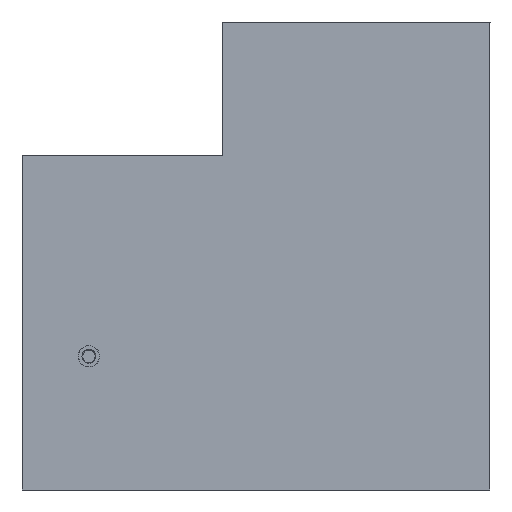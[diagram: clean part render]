
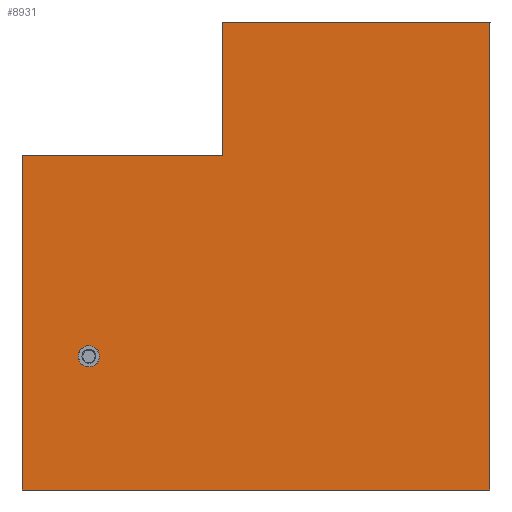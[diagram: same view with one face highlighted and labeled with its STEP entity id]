
A CAD part, left-side view. The second image highlights one B-rep face of the part: STEP entity #8931.
In plain terms, the highlighted planar face has unit normal (-1, 0, 0).
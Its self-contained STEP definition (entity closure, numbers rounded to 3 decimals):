
#7 = DIRECTION ( 'NONE',  ( 0., -1., 0. ) ) ;
#101 = DIRECTION ( 'NONE',  ( -1., 0., 0. ) ) ;
#122 = VERTEX_POINT ( 'NONE', #2114 ) ;
#373 = CARTESIAN_POINT ( 'NONE',  ( -10., 25., -10. ) ) ;
#394 = VECTOR ( 'NONE', #7, 1000. ) ;
#502 = LINE ( 'NONE', #3722, #4948 ) ;
#548 = VECTOR ( 'NONE', #5599, 1000. ) ;
#723 = LINE ( 'NONE', #7472, #394 ) ;
#975 = DIRECTION ( 'NONE',  ( -1., 0., 0. ) ) ;
#1260 = ORIENTED_EDGE ( 'NONE', *, *, #10468, .T. ) ;
#1437 = CARTESIAN_POINT ( 'NONE',  ( -10., 25., 15. ) ) ;
#1922 = ORIENTED_EDGE ( 'NONE', *, *, #2631, .F. ) ;
#2044 = VERTEX_POINT ( 'NONE', #3774 ) ;
#2114 = CARTESIAN_POINT ( 'NONE',  ( -10., 10., 25. ) ) ;
#2201 = VERTEX_POINT ( 'NONE', #4919 ) ;
#2470 = ORIENTED_EDGE ( 'NONE', *, *, #9874, .F. ) ;
#2582 = PLANE ( 'NONE',  #4031 ) ;
#2631 = EDGE_CURVE ( 'NONE', #5541, #7901, #7839, .T. ) ;
#2914 = LINE ( 'NONE', #7382, #548 ) ;
#3056 = LINE ( 'NONE', #1437, #6366 ) ;
#3184 = ORIENTED_EDGE ( 'NONE', *, *, #5424, .F. ) ;
#3221 = DIRECTION ( 'NONE',  ( 0., 0., -1. ) ) ;
#3362 = VERTEX_POINT ( 'NONE', #9746 ) ;
#3398 = DIRECTION ( 'NONE',  ( 1., 0., 0. ) ) ;
#3722 = CARTESIAN_POINT ( 'NONE',  ( -10., 10., -10. ) ) ;
#3774 = CARTESIAN_POINT ( 'NONE',  ( -10., -10., -10. ) ) ;
#4031 = AXIS2_PLACEMENT_3D ( 'NONE', #9288, #3398, #6675 ) ;
#4174 = FACE_BOUND ( 'NONE', #9604, .T. ) ;
#4257 = VERTEX_POINT ( 'NONE', #5747 ) ;
#4288 = VECTOR ( 'NONE', #3221, 1000. ) ;
#4549 = EDGE_CURVE ( 'NONE', #2044, #10641, #502, .T. ) ;
#4621 = ORIENTED_EDGE ( 'NONE', *, *, #8750, .F. ) ;
#4687 = AXIS2_PLACEMENT_3D ( 'NONE', #6910, #101, #8442 ) ;
#4727 = ORIENTED_EDGE ( 'NONE', *, *, #4549, .F. ) ;
#4760 = DIRECTION ( 'NONE',  ( 0., 1., 0. ) ) ;
#4862 = ORIENTED_EDGE ( 'NONE', *, *, #5553, .F. ) ;
#4919 = CARTESIAN_POINT ( 'NONE',  ( -10., 25., 15. ) ) ;
#4948 = VECTOR ( 'NONE', #4760, 1000. ) ;
#5206 = VECTOR ( 'NONE', #6857, 1000. ) ;
#5424 = EDGE_CURVE ( 'NONE', #10641, #2201, #3056, .T. ) ;
#5477 = LINE ( 'NONE', #7371, #4288 ) ;
#5541 = VERTEX_POINT ( 'NONE', #7159 ) ;
#5553 = EDGE_CURVE ( 'NONE', #3362, #2044, #5477, .T. ) ;
#5599 = DIRECTION ( 'NONE',  ( 0., 0., 1. ) ) ;
#5747 = CARTESIAN_POINT ( 'NONE',  ( -10., 10., 15. ) ) ;
#6366 = VECTOR ( 'NONE', #8035, 1000. ) ;
#6675 = DIRECTION ( 'NONE',  ( 0., 0., -1. ) ) ;
#6746 = EDGE_LOOP ( 'NONE', ( #2470, #4621, #1260, #3184, #4727, #4862 ) ) ;
#6804 = LINE ( 'NONE', #9362, #5206 ) ;
#6857 = DIRECTION ( 'NONE',  ( 0., 1., 0. ) ) ;
#6910 = CARTESIAN_POINT ( 'NONE',  ( -10., 20., 0. ) ) ;
#7159 = CARTESIAN_POINT ( 'NONE',  ( -10., 20., -0.8 ) ) ;
#7371 = CARTESIAN_POINT ( 'NONE',  ( -10., -10., 25. ) ) ;
#7382 = CARTESIAN_POINT ( 'NONE',  ( -10., 10., 25. ) ) ;
#7472 = CARTESIAN_POINT ( 'NONE',  ( -10., 10., 25. ) ) ;
#7724 = DIRECTION ( 'NONE',  ( 0., 0., 1. ) ) ;
#7839 = CIRCLE ( 'NONE', #8705, 0.8 ) ;
#7901 = VERTEX_POINT ( 'NONE', #10265 ) ;
#8035 = DIRECTION ( 'NONE',  ( 0., 0., 1. ) ) ;
#8304 = FACE_OUTER_BOUND ( 'NONE', #6746, .T. ) ;
#8438 = CARTESIAN_POINT ( 'NONE',  ( -10., 20., 0. ) ) ;
#8442 = DIRECTION ( 'NONE',  ( 0., 0., 1. ) ) ;
#8705 = AXIS2_PLACEMENT_3D ( 'NONE', #8438, #975, #7724 ) ;
#8750 = EDGE_CURVE ( 'NONE', #4257, #122, #2914, .T. ) ;
#8931 = ADVANCED_FACE ( 'NONE', ( #8304, #4174 ), #2582, .F. ) ;
#9288 = CARTESIAN_POINT ( 'NONE',  ( -10., 0., 0. ) ) ;
#9362 = CARTESIAN_POINT ( 'NONE',  ( -10., 10., 15. ) ) ;
#9373 = CIRCLE ( 'NONE', #4687, 0.8 ) ;
#9604 = EDGE_LOOP ( 'NONE', ( #10536, #1922 ) ) ;
#9746 = CARTESIAN_POINT ( 'NONE',  ( -10., -10., 25. ) ) ;
#9874 = EDGE_CURVE ( 'NONE', #122, #3362, #723, .T. ) ;
#10265 = CARTESIAN_POINT ( 'NONE',  ( -10., 20., 0.8 ) ) ;
#10468 = EDGE_CURVE ( 'NONE', #4257, #2201, #6804, .T. ) ;
#10486 = EDGE_CURVE ( 'NONE', #7901, #5541, #9373, .T. ) ;
#10536 = ORIENTED_EDGE ( 'NONE', *, *, #10486, .F. ) ;
#10641 = VERTEX_POINT ( 'NONE', #373 ) ;
